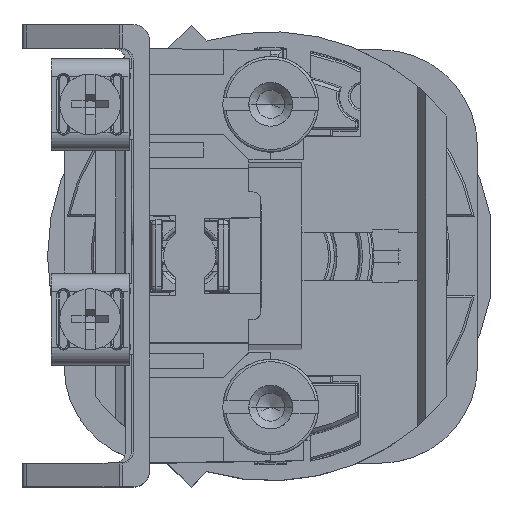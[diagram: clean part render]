
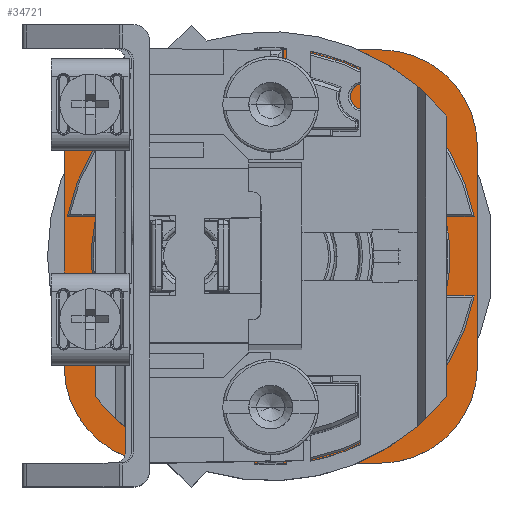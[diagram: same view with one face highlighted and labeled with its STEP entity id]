
A CAD part, top view. The second image highlights one B-rep face of the part: STEP entity #34721.
In plain terms, the highlighted planar face has unit normal (0, 0, 1).
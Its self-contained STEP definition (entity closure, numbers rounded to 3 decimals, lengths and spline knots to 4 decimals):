
#29669=CARTESIAN_POINT('',(0.3506,1.2675,-1.772));
#29670=DIRECTION('',(0.,0.,-1.));
#29671=DIRECTION('',(0.,-1.,0.));
#29672=AXIS2_PLACEMENT_3D('',#29669,#29670,#29671);
#29674=CARTESIAN_POINT('',(0.3506,1.2675,-1.772));
#29675=DIRECTION('',(0.,0.,-1.));
#29676=DIRECTION('',(0.,1.,0.));
#29677=AXIS2_PLACEMENT_3D('',#29674,#29675,#29676);
#29679=CARTESIAN_POINT('',(1.6046,0.5435,-1.772));
#29680=DIRECTION('',(0.,0.,-1.));
#29681=DIRECTION('',(0.,-1.,0.));
#29682=AXIS2_PLACEMENT_3D('',#29679,#29680,#29681);
#29684=CARTESIAN_POINT('',(1.6046,0.5435,-1.772));
#29685=DIRECTION('',(0.,0.,-1.));
#29686=DIRECTION('',(0.,1.,0.));
#29687=AXIS2_PLACEMENT_3D('',#29684,#29685,#29686);
#29689=DIRECTION('',(0.,1.,0.));
#29690=VECTOR('',#29689,0.86);
#29691=CARTESIAN_POINT('',(0.1676,0.4755,-1.772));
#29692=LINE('',#29691,#29690);
#29693=DIRECTION('',(1.,0.,0.));
#29694=VECTOR('',#29693,0.86);
#29695=CARTESIAN_POINT('',(0.5476,1.7155,-1.772));
#29696=LINE('',#29695,#29694);
#29697=DIRECTION('',(0.,-1.,0.));
#29698=VECTOR('',#29697,0.86);
#29699=CARTESIAN_POINT('',(1.7876,1.3355,-1.772));
#29700=LINE('',#29699,#29698);
#29701=DIRECTION('',(-1.,0.,0.));
#29702=VECTOR('',#29701,0.86);
#29703=CARTESIAN_POINT('',(1.4076,0.0955,-1.772));
#29704=LINE('',#29703,#29702);
#29705=CARTESIAN_POINT('',(0.9776,0.9055,-1.772));
#29706=DIRECTION('',(0.,0.,-1.));
#29707=DIRECTION('',(0.,-1.,0.));
#29708=AXIS2_PLACEMENT_3D('',#29705,#29706,#29707);
#29710=CARTESIAN_POINT('',(0.9776,0.9055,-1.772));
#29711=DIRECTION('',(0.,0.,-1.));
#29712=DIRECTION('',(0.,1.,0.));
#29713=AXIS2_PLACEMENT_3D('',#29710,#29711,#29712);
#29832=CARTESIAN_POINT('',(0.5476,0.4755,-1.772));
#29833=DIRECTION('',(0.,0.,1.));
#29834=DIRECTION('',(-1.,0.,0.));
#29835=AXIS2_PLACEMENT_3D('',#29832,#29833,#29834);
#29854=CARTESIAN_POINT('',(1.4076,0.4755,-1.772));
#29855=DIRECTION('',(0.,0.,1.));
#29856=DIRECTION('',(0.,-1.,0.));
#29857=AXIS2_PLACEMENT_3D('',#29854,#29855,#29856);
#29876=CARTESIAN_POINT('',(1.4076,1.3355,-1.772));
#29877=DIRECTION('',(0.,0.,1.));
#29878=DIRECTION('',(1.,0.,0.));
#29879=AXIS2_PLACEMENT_3D('',#29876,#29877,#29878);
#29898=CARTESIAN_POINT('',(0.5476,1.3355,-1.772));
#29899=DIRECTION('',(0.,0.,1.));
#29900=DIRECTION('',(0.,1.,0.));
#29901=AXIS2_PLACEMENT_3D('',#29898,#29899,#29900);
#34097=CARTESIAN_POINT('',(0.5476,0.0955,-1.772));
#34099=VERTEX_POINT('',#34097);
#34102=CARTESIAN_POINT('',(0.1676,0.4755,-1.772));
#34103=VERTEX_POINT('',#34102);
#34105=CARTESIAN_POINT('',(1.7876,0.4755,-1.772));
#34107=VERTEX_POINT('',#34105);
#34110=CARTESIAN_POINT('',(1.4076,0.0955,-1.772));
#34111=VERTEX_POINT('',#34110);
#34113=CARTESIAN_POINT('',(1.4076,1.7155,-1.772));
#34115=VERTEX_POINT('',#34113);
#34118=CARTESIAN_POINT('',(1.7876,1.3355,-1.772));
#34119=VERTEX_POINT('',#34118);
#34121=CARTESIAN_POINT('',(0.1676,1.3355,-1.772));
#34123=VERTEX_POINT('',#34121);
#34126=CARTESIAN_POINT('',(0.5476,1.7155,-1.772));
#34127=VERTEX_POINT('',#34126);
#34128=CARTESIAN_POINT('',(0.3506,1.201,-1.772));
#34129=CARTESIAN_POINT('',(0.3506,1.334,-1.772));
#34130=VERTEX_POINT('',#34128);
#34131=VERTEX_POINT('',#34129);
#34132=CARTESIAN_POINT('',(1.6046,0.477,-1.772));
#34133=CARTESIAN_POINT('',(1.6046,0.61,-1.772));
#34134=VERTEX_POINT('',#34132);
#34135=VERTEX_POINT('',#34133);
#34638=CARTESIAN_POINT('',(0.9776,0.3336,-1.772));
#34639=CARTESIAN_POINT('',(0.9776,1.4774,-1.772));
#34640=VERTEX_POINT('',#34638);
#34641=VERTEX_POINT('',#34639);
#34680=CARTESIAN_POINT('',(0.9776,0.9055,-1.772));
#34681=DIRECTION('',(0.,0.,-1.));
#34682=DIRECTION('',(0.,-1.,0.));
#34683=AXIS2_PLACEMENT_3D('',#34680,#34681,#34682);
#34684=PLANE('',#34683);
#34686=ORIENTED_EDGE('',*,*,#34685,.F.);
#34688=ORIENTED_EDGE('',*,*,#34687,.T.);
#34690=ORIENTED_EDGE('',*,*,#34689,.F.);
#34692=ORIENTED_EDGE('',*,*,#34691,.T.);
#34694=ORIENTED_EDGE('',*,*,#34693,.F.);
#34696=ORIENTED_EDGE('',*,*,#34695,.T.);
#34698=ORIENTED_EDGE('',*,*,#34697,.F.);
#34700=ORIENTED_EDGE('',*,*,#34699,.T.);
#34701=EDGE_LOOP('',(#34686,#34688,#34690,#34692,#34694,#34696,#34698,#34700));
#34702=FACE_OUTER_BOUND('',#34701,.F.);
#34704=ORIENTED_EDGE('',*,*,#34703,.F.);
#34706=ORIENTED_EDGE('',*,*,#34705,.F.);
#34707=EDGE_LOOP('',(#34704,#34706));
#34708=FACE_BOUND('',#34707,.F.);
#34710=ORIENTED_EDGE('',*,*,#34709,.F.);
#34712=ORIENTED_EDGE('',*,*,#34711,.F.);
#34713=EDGE_LOOP('',(#34710,#34712));
#34714=FACE_BOUND('',#34713,.F.);
#34716=ORIENTED_EDGE('',*,*,#34715,.F.);
#34718=ORIENTED_EDGE('',*,*,#34717,.F.);
#34719=EDGE_LOOP('',(#34716,#34718));
#34720=FACE_BOUND('',#34719,.F.);
#34721=ADVANCED_FACE('',(#34702,#34708,#34714,#34720),#34684,.F.);
#29673=CIRCLE('',#29672,0.0665);
#29678=CIRCLE('',#29677,0.0665);
#29683=CIRCLE('',#29682,0.0665);
#29688=CIRCLE('',#29687,0.0665);
#29709=CIRCLE('',#29708,0.5719);
#29714=CIRCLE('',#29713,0.5719);
#29836=CIRCLE('',#29835,0.38);
#29858=CIRCLE('',#29857,0.38);
#29880=CIRCLE('',#29879,0.38);
#29902=CIRCLE('',#29901,0.38);
#34685=EDGE_CURVE('',#34103,#34099,#29836,.T.);
#34687=EDGE_CURVE('',#34103,#34123,#29692,.T.);
#34689=EDGE_CURVE('',#34127,#34123,#29902,.T.);
#34691=EDGE_CURVE('',#34127,#34115,#29696,.T.);
#34693=EDGE_CURVE('',#34119,#34115,#29880,.T.);
#34695=EDGE_CURVE('',#34119,#34107,#29700,.T.);
#34697=EDGE_CURVE('',#34111,#34107,#29858,.T.);
#34699=EDGE_CURVE('',#34111,#34099,#29704,.T.);
#34703=EDGE_CURVE('',#34134,#34135,#29683,.T.);
#34705=EDGE_CURVE('',#34135,#34134,#29688,.T.);
#34709=EDGE_CURVE('',#34130,#34131,#29673,.T.);
#34711=EDGE_CURVE('',#34131,#34130,#29678,.T.);
#34715=EDGE_CURVE('',#34640,#34641,#29709,.T.);
#34717=EDGE_CURVE('',#34641,#34640,#29714,.T.);
